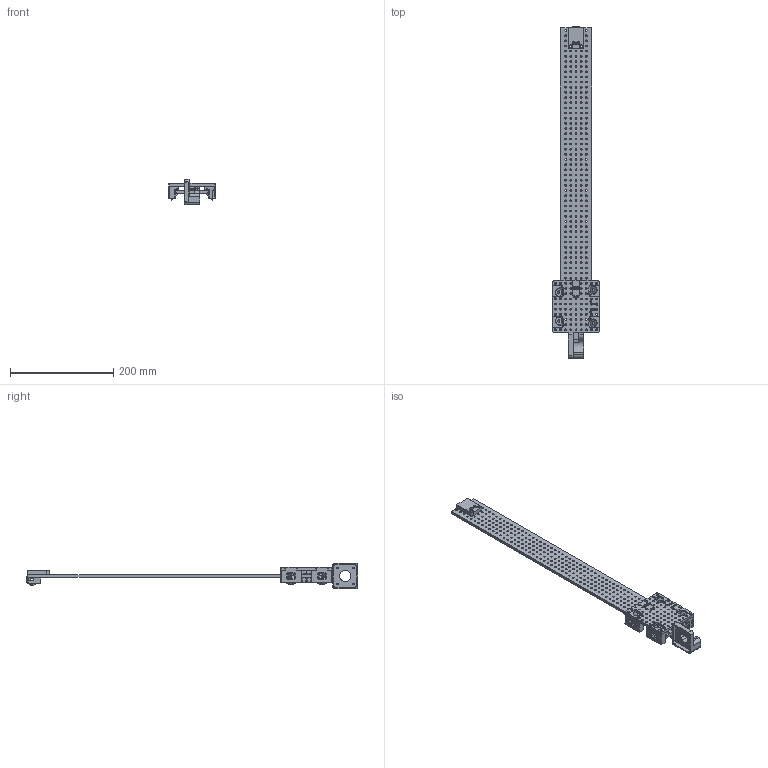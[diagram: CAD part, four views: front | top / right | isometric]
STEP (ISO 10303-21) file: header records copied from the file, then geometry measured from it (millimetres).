
FILE_DESCRIPTION(/* description */ (''),/* implementation_level */ '2;1');
FILE_NAME(/* name */ 'D:/dropbox/CBA/projects/machines/littleRascal/cad/BEAMS/RCT N17 Linear Pulley 5_64 Acrylic.step',/* time_stamp */ '2019-05-17T16:00:43-04:00',/* author */ ('jakerobertread@gmail.com'),/* organization */ (''),/* preprocessor_version */ 'ST-DEVELOPER v18',/* originating_system */ 'Autodesk Translation Framework v8.2.0.1029',/* authorisation */ '');
FILE_SCHEMA (('AUTOMOTIVE_DESIGN { 1 0 10303 214 3 1 1 }'));
Length unit declared in the file: millimetre
Products named in the file (1): RCT N17 Linear Pulley
Bounding box: 90 x 643.17 x 49.38 mm (x, y, z)
Volume: 320186.7 mm3; surface area: 167671 mm2
Topology: 24 solids, 24 shells, 1059 faces, 2913 edges, 1888 vertices
Faces by surface type: cylinder 701, plane 242, bspline 48, cone 40, torus 20, sphere 8
Full cylindrical faces by diameter (mm): 3.1 x16, 3.25 x4, 3.283 x4, 3.3 x342, 3.5 x20, 3.683 x4, 4.064 x16, 5 x1, 5.4 x16, 6 x16, 6.5 x2, 15.207 x1, 16 x11, 17.5 x2, 21.08 x1, 22.25 x1
Entity records: 38509 total; most frequent: CARTESIAN_POINT 8726, DIRECTION 6374, ORIENTED_EDGE 5826, EDGE_CURVE 2913, AXIS2_PLACEMENT_3D 2539, EDGE_LOOP 1905, VERTEX_POINT 1890, CIRCLE 1429
